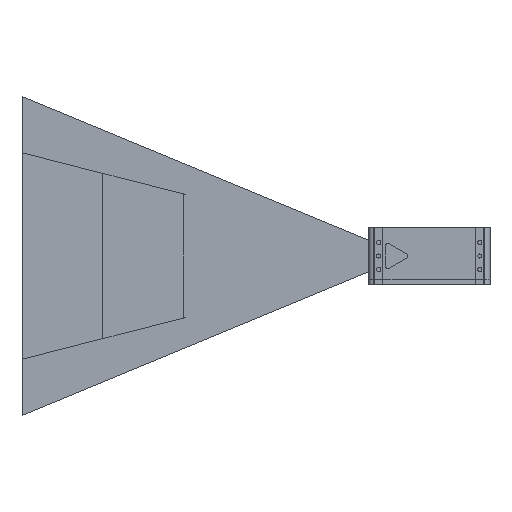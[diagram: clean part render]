
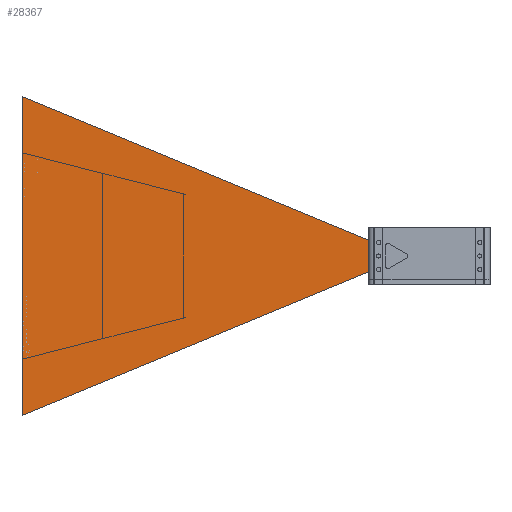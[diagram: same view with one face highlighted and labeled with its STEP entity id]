
A CAD part, left-side view. The second image highlights one B-rep face of the part: STEP entity #28367.
In plain terms, the highlighted planar face has unit normal (-1, 0, 0) as drawn and (-0.242, 0.97, 0) by its records, which use the part's own axes.
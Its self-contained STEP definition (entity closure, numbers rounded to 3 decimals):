
#2178=PLANE('',#31132);
#3564=LINE('',#44693,#5723);
#3565=LINE('',#44695,#5724);
#3566=LINE('',#44697,#5725);
#3567=LINE('',#44698,#5726);
#5723=VECTOR('',#36447,10.);
#5724=VECTOR('',#36448,10.);
#5725=VECTOR('',#36449,10.);
#5726=VECTOR('',#36450,10.);
#8244=FACE_OUTER_BOUND('',#10112,.T.);
#10112=EDGE_LOOP('',(#22784,#22785,#22786,#22787));
#13723=VERTEX_POINT('',#44691);
#13724=VERTEX_POINT('',#44692);
#13725=VERTEX_POINT('',#44694);
#13726=VERTEX_POINT('',#44696);
#17007=EDGE_CURVE('',#13723,#13724,#3564,.T.);
#17008=EDGE_CURVE('',#13724,#13725,#3565,.T.);
#17009=EDGE_CURVE('',#13725,#13726,#3566,.T.);
#17010=EDGE_CURVE('',#13726,#13723,#3567,.T.);
#22784=ORIENTED_EDGE('',*,*,#17007,.T.);
#22785=ORIENTED_EDGE('',*,*,#17008,.T.);
#22786=ORIENTED_EDGE('',*,*,#17009,.T.);
#22787=ORIENTED_EDGE('',*,*,#17010,.T.);
#28367=ADVANCED_FACE('',(#8244),#2178,.T.);
#31132=AXIS2_PLACEMENT_3D('',#44690,#36445,#36446);
#36445=DIRECTION('center_axis',(-0.242,0.97,0.));
#36446=DIRECTION('ref_axis',(0.,0.,1.));
#36447=DIRECTION('',(0.,0.,-1.));
#36448=DIRECTION('',(-0.896,-0.224,-0.383));
#36449=DIRECTION('',(0.,0.,1.));
#36450=DIRECTION('',(0.896,0.224,-0.383));
#44690=CARTESIAN_POINT('Origin',(-182.503,8.676,0.));
#44691=CARTESIAN_POINT('',(-23.241,48.384,10.5));
#44692=CARTESIAN_POINT('',(-23.241,48.384,-10.5));
#44693=CARTESIAN_POINT('',(-23.241,48.384,10.5));
#44694=CARTESIAN_POINT('',(-275.518,-14.515,-118.196));
#44695=CARTESIAN_POINT('',(-23.241,48.384,-10.5));
#44696=CARTESIAN_POINT('',(-275.518,-14.515,118.196));
#44697=CARTESIAN_POINT('',(-275.518,-14.515,-118.196));
#44698=CARTESIAN_POINT('',(-275.518,-14.515,118.196));
